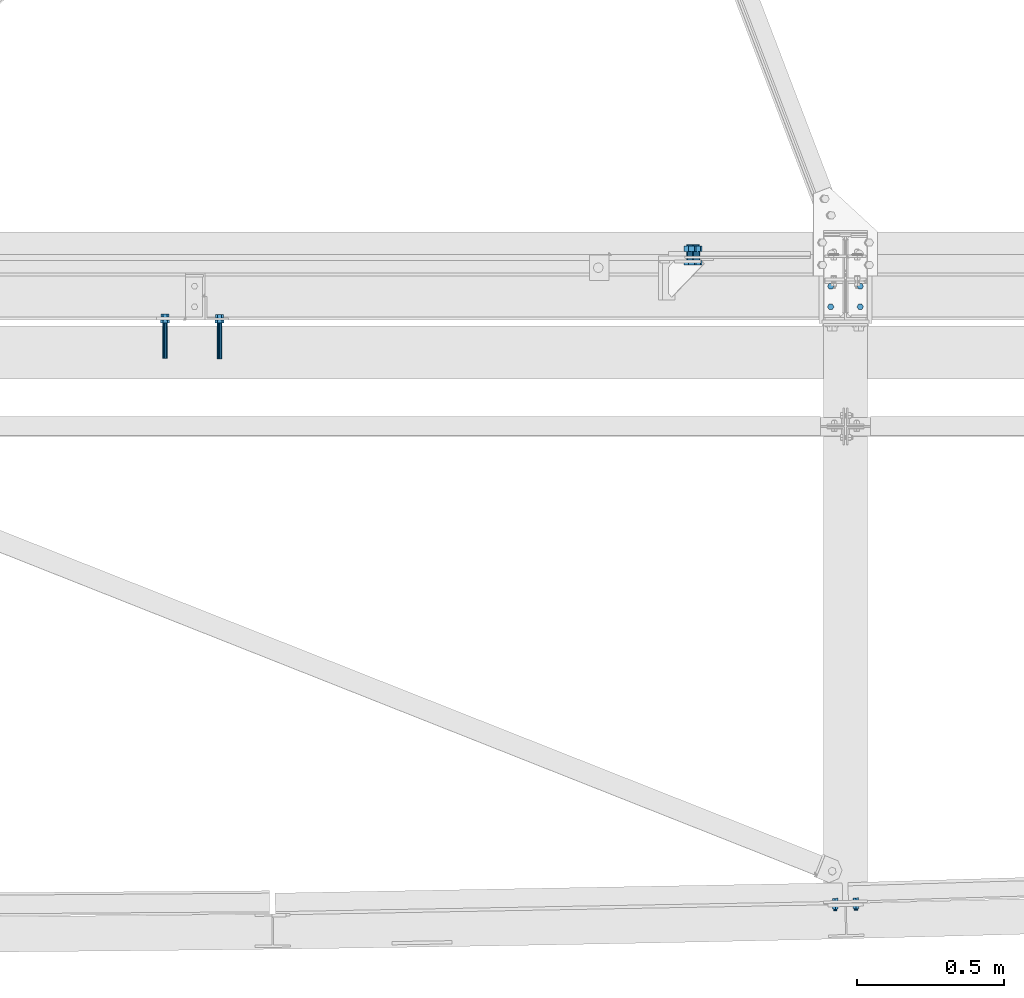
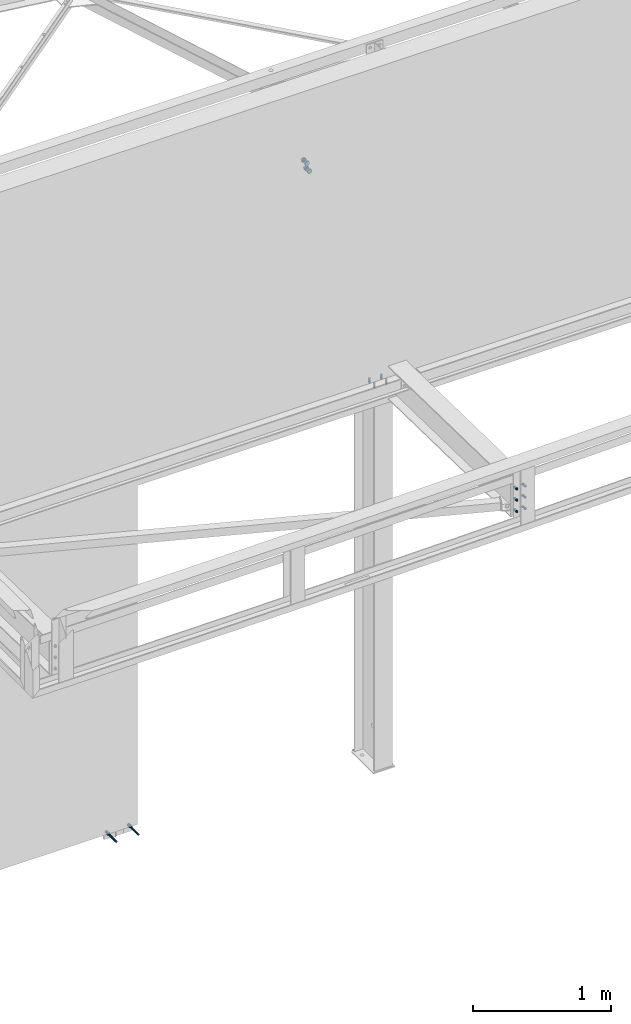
# One storey, part 23 of 3134: 6 mechanical fasteners, 5 elements without a shape of their own.
"""IFC2X3 building model written with IfcOpenShell, lengths in millimetres."""

from ifc_helpers import new_model, si_unit, frame, origin_with_axes, place, context, subcontext, project, spatial, faceted_brep, source, transform, mapped, material, type_object, element, aggregate, save


model = new_model("IFC2X3")

# Units and contexts
model_context = context("Model", 3, precision=1e-05, world=origin_with_axes())
body_context = subcontext(model_context, "Body", "Model", "MODEL_VIEW")
ifc_project = project(units=[si_unit("LENGTHUNIT", "METRE", prefix="MILLI"), si_unit("AREAUNIT", "SQUARE_METRE"), si_unit("VOLUMEUNIT", "CUBIC_METRE"), si_unit("MASSUNIT", "GRAM", prefix="KILO"), si_unit("TIMEUNIT", "SECOND"), si_unit("PLANEANGLEUNIT", "RADIAN"), si_unit("SOLIDANGLEUNIT", "STERADIAN"), si_unit("THERMODYNAMICTEMPERATUREUNIT", "DEGREE_CELSIUS"), si_unit("LUMINOUSINTENSITYUNIT", "LUMEN")], contexts=[model_context])

# Site, building, storey
site_placement = place(None, origin_with_axes())
site = spatial("IfcSite", under=ifc_project, at=site_placement, CompositionType="ELEMENT")
building_placement = place(site_placement, origin_with_axes())
building = spatial("IfcBuilding", under=site, at=building_placement, Name="Undefined", CompositionType="ELEMENT")
storey_placement = place(building_placement, origin_with_axes())
storey = spatial("IfcBuildingStorey", under=building, at=storey_placement, Name="Undefined", CompositionType="ELEMENT", Elevation=0.0)

# Assembly, mechanical fastener
assembly_1_placement = place(storey_placement, origin_with_axes())
assembly_1 = element("IfcElementAssembly", 1, at=assembly_1_placement, inside=storey, Name="UPN120", AssemblyPlace="NOTDEFINED", PredefinedType="RIGID_FRAME")
ifc_material_1 = material(Name="8.8")
mechanical_fastener_type = type_object("IfcMechanicalFastenerType", Name="Bolt assembly")
shared_shape_1 = source(origin_with_axes(), body_context, "Body", "Brep", [
    faceted_brep([(10.9696551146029, -7.99980031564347, 0.0), (5.48482755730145, -7.99980031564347, 9.5), (-5.48482755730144, -7.99980031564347, 9.5), (-10.9696551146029, -7.99980031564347, 1.34339530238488e-15), (-5.48482755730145, -7.99980031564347, -9.5), (5.48482755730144, -7.99980031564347, -9.50000000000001), (5.48482755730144, 0.000199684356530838, -9.50000000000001), (-5.48482755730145, 0.000199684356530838, -9.5), (-10.9696551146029, 0.000199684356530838, 1.34339530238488e-15), (-5.48482755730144, 0.000199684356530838, 9.5), (5.48482755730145, 0.000199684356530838, 9.5), (10.9696551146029, 0.000199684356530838, 0.0), (6.0, 0.000199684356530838, 0.0), (5.19615242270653, 0.000199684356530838, 3.00000000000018), (2.99999999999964, 0.000199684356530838, 5.19615242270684), (-6.21801588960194e-13, 0.000199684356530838, 6.0), (-3.00000000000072, 0.000199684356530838, 5.19615242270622), (-5.19615242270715, 0.000199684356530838, 2.9999999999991), (-6.0, 0.000199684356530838, -1.24360317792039e-12), (-5.19615242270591, 0.000199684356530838, -3.00000000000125), (-2.99999999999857, 0.000199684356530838, -5.19615242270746), (1.85874342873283e-12, 0.000199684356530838, -6.0), (3.00000000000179, 0.000199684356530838, -5.1961524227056), (5.19615242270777, 0.000199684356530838, -2.99999999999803), (5.19615242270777, 35.0001996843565, -2.99999999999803), (3.00000000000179, 35.0001996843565, -5.1961524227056), (1.85874342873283e-12, 35.0001996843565, -6.0), (-2.99999999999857, 35.0001996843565, -5.19615242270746), (-5.19615242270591, 35.0001996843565, -3.00000000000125), (-6.0, 35.0001996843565, -1.24360317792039e-12), (-5.19615242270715, 35.0001996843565, 2.9999999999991), (-3.00000000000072, 35.0001996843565, 5.19615242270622), (-6.21801588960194e-13, 35.0001996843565, 6.0), (2.99999999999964, 35.0001996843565, 5.19615242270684), (5.19615242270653, 35.0001996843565, 3.00000000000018), (6.0, 35.0001996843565, 0.0), (10.9696551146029, 18.0000503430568, 0.0), (5.48482755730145, 18.0000503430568, 9.5), (-5.48482755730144, 18.0000503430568, 9.5), (-10.9696551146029, 18.0000503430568, 1.34339530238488e-15), (-5.48482755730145, 18.0000503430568, -9.5), (5.48482755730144, 18.0000503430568, -9.50000000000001), (5.48482755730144, 28.0000503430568, -9.50000000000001), (-5.48482755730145, 28.0000503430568, -9.5), (-10.9696551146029, 28.0000503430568, 1.34339530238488e-15), (-5.48482755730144, 28.0000503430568, 9.5), (5.48482755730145, 28.0000503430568, 9.5), (10.9696551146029, 28.0000503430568, 0.0)], [[[0, 1, 2, 3, 4, 5]], [[6, 7, 8, 9, 10, 11]], [[0, 11, 10, 1]], [[1, 10, 9, 2]], [[2, 9, 8, 3]], [[3, 8, 7, 4]], [[4, 7, 6, 5]], [[5, 6, 11, 0]], [[12, 13, 14, 15, 16, 17, 18, 19, 20, 21, 22, 23]], [[24, 25, 26, 27, 28, 29, 30, 31, 32, 33, 34, 35]], [[12, 35, 34, 13]], [[13, 34, 33, 14]], [[14, 33, 32, 15]], [[15, 32, 31, 16]], [[16, 31, 30, 17]], [[17, 30, 29, 18]], [[18, 29, 28, 19]], [[19, 28, 27, 20]], [[20, 27, 26, 21]], [[21, 26, 25, 22]], [[22, 25, 24, 23]], [[23, 24, 35, 12]], [[36, 37, 38, 39, 40, 41]], [[42, 43, 44, 45, 46, 47]], [[36, 47, 46, 37]], [[37, 46, 45, 38]], [[38, 45, 44, 39]], [[39, 44, 43, 40]], [[40, 43, 42, 41]], [[41, 42, 47, 36]]]),
    faceted_brep([(7.0, 0.100152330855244, 0.0), (6.06217782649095, 0.100152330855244, 3.50000000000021), (3.49999999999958, 0.100152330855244, 6.06217782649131), (-7.25435187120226e-13, 0.100152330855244, 7.0), (-3.50000000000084, 0.100152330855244, 6.06217782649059), (-6.06217782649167, 0.100152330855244, 3.49999999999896), (-7.0, 0.100152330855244, -1.45087037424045e-12), (-6.06217782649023, 0.100152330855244, -3.50000000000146), (-3.49999999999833, 0.100152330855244, -6.06217782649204), (2.1685340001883e-12, 0.100152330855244, -7.0), (3.50000000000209, 0.100152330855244, -6.06217782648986), (6.0621778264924, 0.100152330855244, -3.4999999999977), (6.0621778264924, 10.1001996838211, -3.4999999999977), (3.50000000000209, 10.1001996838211, -6.06217782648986), (2.1685340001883e-12, 10.1001996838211, -7.0), (-3.49999999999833, 10.1001996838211, -6.06217782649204), (-6.06217782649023, 10.1001996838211, -3.50000000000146), (-7.0, 10.1001996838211, -1.45087037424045e-12), (-6.06217782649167, 10.1001996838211, 3.49999999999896), (-3.50000000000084, 10.1001996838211, 6.06217782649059), (-7.25435187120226e-13, 10.1001996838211, 7.0), (3.49999999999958, 10.1001996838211, 6.06217782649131), (6.06217782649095, 10.1001996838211, 3.50000000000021), (7.0, 10.1001996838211, 0.0), (7.0, 9.90005034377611, 0.0), (6.06217782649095, 9.90005034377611, 3.50000000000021), (3.49999999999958, 9.90005034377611, 6.06217782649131), (-7.25435187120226e-13, 9.90005034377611, 7.0), (-3.50000000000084, 9.90005034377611, 6.06217782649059), (-6.06217782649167, 9.90005034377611, 3.49999999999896), (-7.0, 9.90005034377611, -1.45087037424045e-12), (-6.06217782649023, 9.90005034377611, -3.50000000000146), (-3.49999999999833, 9.90005034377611, -6.06217782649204), (2.1685340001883e-12, 9.90005034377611, -7.0), (3.50000000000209, 9.90005034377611, -6.06217782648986), (6.0621778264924, 9.90005034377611, -3.4999999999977), (6.0621778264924, 18.0000503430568, -3.4999999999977), (3.50000000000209, 18.0000503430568, -6.06217782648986), (2.1685340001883e-12, 18.0000503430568, -7.0), (-3.49999999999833, 18.0000503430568, -6.06217782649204), (-6.06217782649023, 18.0000503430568, -3.50000000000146), (-7.0, 18.0000503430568, -1.45087037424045e-12), (-6.06217782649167, 18.0000503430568, 3.49999999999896), (-3.50000000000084, 18.0000503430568, 6.06217782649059), (-7.25435187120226e-13, 18.0000503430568, 7.0), (3.49999999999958, 18.0000503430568, 6.06217782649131), (6.06217782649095, 18.0000503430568, 3.50000000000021), (7.0, 18.0000503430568, 0.0)], [[[0, 1, 2, 3, 4, 5, 6, 7, 8, 9, 10, 11]], [[12, 13, 14, 15, 16, 17, 18, 19, 20, 21, 22, 23]], [[0, 23, 22, 1]], [[1, 22, 21, 2]], [[2, 21, 20, 3]], [[3, 20, 19, 4]], [[4, 19, 18, 5]], [[5, 18, 17, 6]], [[6, 17, 16, 7]], [[7, 16, 15, 8]], [[8, 15, 14, 9]], [[9, 14, 13, 10]], [[10, 13, 12, 11]], [[11, 12, 23, 0]], [[24, 25, 26, 27, 28, 29, 30, 31, 32, 33, 34, 35]], [[36, 37, 38, 39, 40, 41, 42, 43, 44, 45, 46, 47]], [[24, 47, 46, 25]], [[25, 46, 45, 26]], [[26, 45, 44, 27]], [[27, 44, 43, 28]], [[28, 43, 42, 29]], [[29, 42, 41, 30]], [[30, 41, 40, 31]], [[31, 40, 39, 32]], [[32, 39, 38, 33]], [[33, 38, 37, 34]], [[34, 37, 36, 35]], [[35, 36, 47, 24]]]),
])
mechanical_fastener_1_placement = place(assembly_1_placement, frame((24742.0002066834, -2195.07349166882, 3310.21815992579), z_axis=(-0.999718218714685, -0.0237378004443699, 0.0), x_axis=(0.0, 0.0, -1.0)))
mechanical_fastener_1 = element("IfcMechanicalFastener", 2, at=mechanical_fastener_1_placement, type_object=mechanical_fastener_type, material=ifc_material_1, Name="Bolt assembly", NominalDiameter=12.0, NominalLength=35.0, context=body_context, shape_type="MappedRepresentation", body=[
    mapped(shared_shape_1, transform((0.0, 0.0, -35.0))),
    mapped(shared_shape_1, transform((100.0, 2.05545802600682e-10, -35.0000000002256))),
    mapped(shared_shape_1, transform((200.0, 2.05545802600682e-10, -35.0000000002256))),
    mapped(shared_shape_1, transform((0.0, 0.0, 35.0))),
    mapped(shared_shape_1, transform((100.0, -2.07364792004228e-10, 35.0000000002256))),
    mapped(shared_shape_1, transform((200.0, -2.07364792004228e-10, 35.0000000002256))),
])
aggregate(assembly_1, [mechanical_fastener_1])

assembly_2_placement = place(storey_placement, origin_with_axes())
assembly_2 = element("IfcElementAssembly", 3, at=assembly_2_placement, inside=storey, Name="UPN160", AssemblyPlace="NOTDEFINED", PredefinedType="RIGID_FRAME")
shared_shape_2 = source(origin_with_axes(), body_context, "Body", "Brep", [
    faceted_brep([(10.9696551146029, -15.5, 0.0), (5.48482755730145, -15.5, 9.5), (-5.48482755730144, -15.5, 9.5), (-10.9696551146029, -15.5, 1.34339530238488e-15), (-5.48482755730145, -15.5, -9.5), (5.48482755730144, -15.5, -9.50000000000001), (5.48482755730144, -7.5, -9.50000000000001), (-5.48482755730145, -7.5, -9.5), (-10.9696551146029, -7.5, 1.34339530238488e-15), (-5.48482755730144, -7.5, 9.5), (5.48482755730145, -7.5, 9.5), (10.9696551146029, -7.5, 0.0), (6.0, -7.5, 0.0), (5.19615242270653, -7.5, 3.00000000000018), (2.99999999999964, -7.5, 5.19615242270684), (-6.21801588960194e-13, -7.5, 6.0), (-3.00000000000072, -7.5, 5.19615242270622), (-5.19615242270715, -7.5, 2.9999999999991), (-6.0, -7.5, -1.24360317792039e-12), (-5.19615242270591, -7.5, -3.00000000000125), (-2.99999999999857, -7.5, -5.19615242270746), (1.85874342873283e-12, -7.5, -6.0), (3.00000000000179, -7.5, -5.1961524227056), (5.19615242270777, -7.5, -2.99999999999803), (5.19615242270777, 27.5000000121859, -2.99999999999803), (3.00000000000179, 27.5000000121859, -5.1961524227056), (1.85874342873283e-12, 27.5000000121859, -6.0), (-2.99999999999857, 27.5000000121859, -5.19615242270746), (-5.19615242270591, 27.5000000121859, -3.00000000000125), (-6.0, 27.5000000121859, -1.24360317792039e-12), (-5.19615242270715, 27.5000000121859, 2.9999999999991), (-3.00000000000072, 27.5000000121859, 5.19615242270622), (-6.21801588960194e-13, 27.5000000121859, 6.0), (2.99999999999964, 27.5000000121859, 5.19615242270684), (5.19615242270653, 27.5000000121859, 3.00000000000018), (6.0, 27.5000000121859, 0.0), (10.9696551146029, 10.0, 0.0), (5.48482755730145, 10.0, 9.5), (-5.48482755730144, 10.0, 9.5), (-10.9696551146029, 10.0, 1.34339530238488e-15), (-5.48482755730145, 10.0, -9.5), (5.48482755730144, 10.0, -9.50000000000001), (5.48482755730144, 20.0, -9.50000000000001), (-5.48482755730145, 20.0, -9.5), (-10.9696551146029, 20.0, 1.34339530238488e-15), (-5.48482755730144, 20.0, 9.5), (5.48482755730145, 20.0, 9.5), (10.9696551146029, 20.0, 0.0)], [[[0, 1, 2, 3, 4, 5]], [[6, 7, 8, 9, 10, 11]], [[0, 11, 10, 1]], [[1, 10, 9, 2]], [[2, 9, 8, 3]], [[3, 8, 7, 4]], [[4, 7, 6, 5]], [[5, 6, 11, 0]], [[12, 13, 14, 15, 16, 17, 18, 19, 20, 21, 22, 23]], [[24, 25, 26, 27, 28, 29, 30, 31, 32, 33, 34, 35]], [[12, 35, 34, 13]], [[13, 34, 33, 14]], [[14, 33, 32, 15]], [[15, 32, 31, 16]], [[16, 31, 30, 17]], [[17, 30, 29, 18]], [[18, 29, 28, 19]], [[19, 28, 27, 20]], [[20, 27, 26, 21]], [[21, 26, 25, 22]], [[22, 25, 24, 23]], [[23, 24, 35, 12]], [[36, 37, 38, 39, 40, 41]], [[42, 43, 44, 45, 46, 47]], [[36, 47, 46, 37]], [[37, 46, 45, 38]], [[38, 45, 44, 39]], [[39, 44, 43, 40]], [[40, 43, 42, 41]], [[41, 42, 47, 36]]]),
    faceted_brep([(7.0, -0.1, 0.0), (6.06217782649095, -0.1, 3.50000000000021), (3.49999999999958, -0.1, 6.06217782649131), (-7.25435187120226e-13, -0.1, 7.0), (-3.50000000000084, -0.1, 6.06217782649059), (-6.06217782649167, -0.1, 3.49999999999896), (-7.0, -0.1, -1.45087037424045e-12), (-6.06217782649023, -0.1, -3.50000000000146), (-3.49999999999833, -0.1, -6.06217782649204), (2.1685340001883e-12, -0.1, -7.0), (3.50000000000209, -0.1, -6.06217782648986), (6.0621778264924, -0.1, -3.4999999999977), (6.0621778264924, 10.0, -3.4999999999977), (3.50000000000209, 10.0, -6.06217782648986), (2.1685340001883e-12, 10.0, -7.0), (-3.49999999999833, 10.0, -6.06217782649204), (-6.06217782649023, 10.0, -3.50000000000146), (-7.0, 10.0, -1.45087037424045e-12), (-6.06217782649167, 10.0, 3.49999999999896), (-3.50000000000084, 10.0, 6.06217782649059), (-7.25435187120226e-13, 10.0, 7.0), (3.49999999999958, 10.0, 6.06217782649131), (6.06217782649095, 10.0, 3.50000000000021), (7.0, 10.0, 0.0), (7.0, -7.4, 0.0), (6.06217782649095, -7.4, 3.50000000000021), (3.49999999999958, -7.4, 6.06217782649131), (-7.25435187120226e-13, -7.4, 7.0), (-3.50000000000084, -7.4, 6.06217782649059), (-6.06217782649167, -7.4, 3.49999999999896), (-7.0, -7.4, -1.45087037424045e-12), (-6.06217782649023, -7.4, -3.50000000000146), (-3.49999999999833, -7.4, -6.06217782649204), (2.1685340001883e-12, -7.4, -7.0), (3.50000000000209, -7.4, -6.06217782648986), (6.0621778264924, -7.4, -3.4999999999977), (6.0621778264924, 0.0999999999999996, -3.4999999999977), (3.50000000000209, 0.0999999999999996, -6.06217782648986), (2.1685340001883e-12, 0.0999999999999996, -7.0), (-3.49999999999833, 0.0999999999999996, -6.06217782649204), (-6.06217782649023, 0.0999999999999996, -3.50000000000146), (-7.0, 0.0999999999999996, -1.45087037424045e-12), (-6.06217782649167, 0.0999999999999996, 3.49999999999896), (-3.50000000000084, 0.0999999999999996, 6.06217782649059), (-7.25435187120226e-13, 0.0999999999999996, 7.0), (3.49999999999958, 0.0999999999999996, 6.06217782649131), (6.06217782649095, 0.0999999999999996, 3.50000000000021), (7.0, 0.0999999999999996, 0.0)], [[[0, 1, 2, 3, 4, 5, 6, 7, 8, 9, 10, 11]], [[12, 13, 14, 15, 16, 17, 18, 19, 20, 21, 22, 23]], [[0, 23, 22, 1]], [[1, 22, 21, 2]], [[2, 21, 20, 3]], [[3, 20, 19, 4]], [[4, 19, 18, 5]], [[5, 18, 17, 6]], [[6, 17, 16, 7]], [[7, 16, 15, 8]], [[8, 15, 14, 9]], [[9, 14, 13, 10]], [[10, 13, 12, 11]], [[11, 12, 23, 0]], [[24, 25, 26, 27, 28, 29, 30, 31, 32, 33, 34, 35]], [[36, 37, 38, 39, 40, 41, 42, 43, 44, 45, 46, 47]], [[24, 47, 46, 25]], [[25, 46, 45, 26]], [[26, 45, 44, 27]], [[27, 44, 43, 28]], [[28, 43, 42, 29]], [[29, 42, 41, 30]], [[30, 41, 40, 31]], [[31, 40, 39, 32]], [[32, 39, 38, 33]], [[33, 38, 37, 34]], [[34, 37, 36, 35]], [[35, 36, 47, 24]]]),
])
mechanical_fastener_2_placement = place(assembly_2_placement, frame((24691.9999999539, -145.0, 3000.00000001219), z_axis=(0.0, 1.0, 0.0), x_axis=(1.0, 0.0, 0.0)))
mechanical_fastener_2 = element("IfcMechanicalFastener", 4, at=mechanical_fastener_2_placement, type_object=mechanical_fastener_type, material=ifc_material_1, Name="Bolt assembly", NominalDiameter=12.0, NominalLength=35.0, context=body_context, shape_type="MappedRepresentation", body=[
    mapped(shared_shape_2, transform((0.0, 0.0, -35.0))),
    mapped(shared_shape_2, transform((0.0, 0.0, 35.0))),
])
aggregate(assembly_2, [mechanical_fastener_2])

assembly_3_placement = place(storey_placement, origin_with_axes())
assembly_3 = element("IfcElementAssembly", 5, at=assembly_3_placement, inside=storey, Name="UPN160", AssemblyPlace="NOTDEFINED", PredefinedType="RIGID_FRAME")
mechanical_fastener_3_placement = place(assembly_3_placement, frame((24791.9999999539, -145.0, 3000.00000001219), z_axis=(0.0, 1.0, 0.0), x_axis=(1.0, 0.0, 0.0)))
mechanical_fastener_3 = element("IfcMechanicalFastener", 6, at=mechanical_fastener_3_placement, type_object=mechanical_fastener_type, material=ifc_material_1, Name="Bolt assembly", NominalDiameter=12.0, NominalLength=35.0, context=body_context, shape_type="MappedRepresentation", body=[
    mapped(shared_shape_2, transform((0.0, 0.0, -35.0))),
    mapped(shared_shape_2, transform((0.0, 0.0, 35.0))),
])
aggregate(assembly_3, [mechanical_fastener_3])

# Assembly, mechanical fasteners
assembly_4_placement = place(storey_placement, origin_with_axes())
assembly_4 = element("IfcElementAssembly", 7, at=assembly_4_placement, inside=storey, Name="UPN160", AssemblyPlace="NOTDEFINED", PredefinedType="RIGID_FRAME")
ifc_material_2 = material(Name="HILTI-HSA")
shared_shape_3 = source(origin_with_axes(), body_context, "Body", "Brep", [
    faceted_brep([(13.856406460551, -20.56, 0.0), (6.92820323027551, -20.56, 12.0), (-6.92820323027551, -20.56, 12.0), (-13.856406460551, -20.56, 1.69692038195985e-15), (-6.92820323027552, -20.56, -12.0), (6.9282032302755, -20.56, -12.0), (6.9282032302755, -10.0, -12.0), (-6.92820323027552, -10.0, -12.0), (-13.856406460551, -10.0, 1.69692038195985e-15), (-6.92820323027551, -10.0, 12.0), (6.92820323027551, -10.0, 12.0), (13.856406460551, -10.0, 0.0), (8.0, -10.0, 0.0), (6.92820323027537, -10.0, 4.00000000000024), (3.99999999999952, -10.0, 6.92820323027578), (-8.29068785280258e-13, -10.0, 8.0), (-4.00000000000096, -10.0, 6.92820323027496), (-6.9282032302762, -10.0, 3.99999999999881), (-8.0, -10.0, -1.65813757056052e-12), (-6.92820323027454, -10.0, -4.00000000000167), (-3.99999999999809, -10.0, -6.92820323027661), (2.47832457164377e-12, -10.0, -8.0), (4.00000000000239, -10.0, -6.92820323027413), (6.92820323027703, -10.0, -3.99999999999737), (6.92820323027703, 130.0, -3.99999999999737), (4.00000000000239, 130.0, -6.92820323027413), (2.47832457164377e-12, 130.0, -8.0), (-3.99999999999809, 130.0, -6.92820323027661), (-6.92820323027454, 130.0, -4.00000000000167), (-8.0, 130.0, -1.65813757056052e-12), (-6.9282032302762, 130.0, 3.99999999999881), (-4.00000000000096, 130.0, 6.92820323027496), (-8.29068785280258e-13, 130.0, 8.0), (3.99999999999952, 130.0, 6.92820323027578), (6.92820323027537, 130.0, 4.00000000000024), (8.0, 130.0, 0.0), (15.3344231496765, 7.105427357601e-15, 0.0), (7.66721157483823, 7.105427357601e-15, 13.28), (-7.66721157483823, 7.105427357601e-15, 13.28), (-15.3344231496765, 7.105427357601e-15, 1.87792522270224e-15), (-7.66721157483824, 7.105427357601e-15, -13.28), (7.66721157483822, 7.105427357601e-15, -13.28), (7.66721157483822, 10.56, -13.28), (-7.66721157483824, 10.56, -13.28), (-15.3344231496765, 10.56, 1.87792522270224e-15), (-7.66721157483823, 10.56, 13.28), (7.66721157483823, 10.56, 13.28), (15.3344231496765, 10.56, 0.0)], [[[0, 1, 2, 3, 4, 5]], [[6, 7, 8, 9, 10, 11]], [[0, 11, 10, 1]], [[1, 10, 9, 2]], [[2, 9, 8, 3]], [[3, 8, 7, 4]], [[4, 7, 6, 5]], [[5, 6, 11, 0]], [[12, 13, 14, 15, 16, 17, 18, 19, 20, 21, 22, 23]], [[24, 25, 26, 27, 28, 29, 30, 31, 32, 33, 34, 35]], [[12, 35, 34, 13]], [[13, 34, 33, 14]], [[14, 33, 32, 15]], [[15, 32, 31, 16]], [[16, 31, 30, 17]], [[17, 30, 29, 18]], [[18, 29, 28, 19]], [[19, 28, 27, 20]], [[20, 27, 26, 21]], [[21, 26, 25, 22]], [[22, 25, 24, 23]], [[23, 24, 35, 12]], [[36, 37, 38, 39, 40, 41]], [[42, 43, 44, 45, 46, 47]], [[36, 47, 46, 37]], [[37, 46, 45, 38]], [[38, 45, 44, 39]], [[39, 44, 43, 40]], [[40, 43, 42, 41]], [[41, 42, 47, 36]]]),
    faceted_brep([(9.0, -10.0, 0.0), (7.79422863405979, -10.0, 4.50000000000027), (4.49999999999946, -10.0, 7.79422863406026), (-9.3270238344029e-13, -10.0, 9.0), (-4.50000000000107, -10.0, 7.79422863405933), (-7.79422863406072, -10.0, 4.49999999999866), (-9.0, -10.0, -1.86540476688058e-12), (-7.79422863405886, -10.0, -4.50000000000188), (-4.49999999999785, -10.0, -7.79422863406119), (2.78811514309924e-12, -10.0, -9.0), (4.50000000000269, -10.0, -7.7942286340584), (7.79422863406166, -10.0, -4.49999999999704), (7.79422863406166, 0.100000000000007, -4.49999999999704), (4.50000000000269, 0.100000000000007, -7.7942286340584), (2.78811514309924e-12, 0.100000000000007, -9.0), (-4.49999999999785, 0.100000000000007, -7.79422863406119), (-7.79422863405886, 0.100000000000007, -4.50000000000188), (-9.0, 0.100000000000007, -1.86540476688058e-12), (-7.79422863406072, 0.100000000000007, 4.49999999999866), (-4.50000000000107, 0.100000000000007, 7.79422863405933), (-9.3270238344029e-13, 0.100000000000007, 9.0), (4.49999999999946, 0.100000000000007, 7.79422863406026), (7.79422863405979, 0.100000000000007, 4.50000000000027), (9.0, 0.100000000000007, 0.0)], [[[0, 1, 2, 3, 4, 5, 6, 7, 8, 9, 10, 11]], [[12, 13, 14, 15, 16, 17, 18, 19, 20, 21, 22, 23]], [[0, 23, 22, 1]], [[1, 22, 21, 2]], [[2, 21, 20, 3]], [[3, 20, 19, 4]], [[4, 19, 18, 5]], [[5, 18, 17, 6]], [[6, 17, 16, 7]], [[7, 16, 15, 8]], [[8, 15, 14, 9]], [[9, 14, 13, 10]], [[10, 13, 12, 11]], [[11, 12, 23, 0]]]),
])
mechanical_fastener_4_placement = place(assembly_4_placement, frame((22432.0, -225.0, -150.0), z_axis=(0.0, 0.0, -1.0), x_axis=(1.0, 0.0, 0.0)))
mechanical_fastener_4 = element("IfcMechanicalFastener", 8, at=mechanical_fastener_4_placement, type_object=mechanical_fastener_type, material=ifc_material_2, Name="Bolt assembly", NominalDiameter=16.0, NominalLength=140.0, context=body_context, shape_type="MappedRepresentation", body=[
    mapped(shared_shape_3, transform((0.0, 0.0, 0.0))),
])
shared_shape_4 = source(origin_with_axes(), body_context, "Body", "Brep", [
    faceted_brep([(13.856406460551, -18.56, 0.0), (6.92820323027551, -18.56, 12.0), (-6.92820323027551, -18.56, 12.0), (-13.856406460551, -18.56, 1.69692038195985e-15), (-6.92820323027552, -18.56, -12.0), (6.9282032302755, -18.56, -12.0), (6.9282032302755, -7.99999766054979, -12.0), (-6.92820323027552, -7.99999766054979, -12.0), (-13.856406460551, -7.99999766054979, 1.69692038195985e-15), (-6.92820323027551, -7.99999766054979, 12.0), (6.92820323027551, -7.99999766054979, 12.0), (13.856406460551, -7.99999766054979, 0.0), (8.0, -8.0, 0.0), (6.92820323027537, -8.0, 4.00000000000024), (3.99999999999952, -8.0, 6.92820323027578), (-8.29068785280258e-13, -8.0, 8.0), (-4.00000000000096, -8.0, 6.92820323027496), (-6.9282032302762, -8.0, 3.99999999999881), (-8.0, -8.0, -1.65813757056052e-12), (-6.92820323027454, -8.0, -4.00000000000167), (-3.99999999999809, -8.0, -6.92820323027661), (2.47832457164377e-12, -8.0, -8.0), (4.00000000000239, -8.0, -6.92820323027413), (6.92820323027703, -8.0, -3.99999999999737), (6.92820323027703, 132.0, -3.99999999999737), (4.00000000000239, 132.0, -6.92820323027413), (2.47832457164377e-12, 132.0, -8.0), (-3.99999999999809, 132.0, -6.92820323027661), (-6.92820323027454, 132.0, -4.00000000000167), (-8.0, 132.0, -1.65813757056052e-12), (-6.9282032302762, 132.0, 3.99999999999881), (-4.00000000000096, 132.0, 6.92820323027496), (-8.29068785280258e-13, 132.0, 8.0), (3.99999999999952, 132.0, 6.92820323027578), (6.92820323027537, 132.0, 4.00000000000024), (8.0, 132.0, 0.0), (15.3344231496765, 7.105427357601e-15, 0.0), (7.66721157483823, 7.105427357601e-15, 13.28), (-7.66721157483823, 7.105427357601e-15, 13.28), (-15.3344231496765, 7.105427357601e-15, 1.87792522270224e-15), (-7.66721157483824, 7.105427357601e-15, -13.28), (7.66721157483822, 7.105427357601e-15, -13.28), (7.66721157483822, 10.56, -13.28), (-7.66721157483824, 10.56, -13.28), (-15.3344231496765, 10.56, 1.87792522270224e-15), (-7.66721157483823, 10.56, 13.28), (7.66721157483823, 10.56, 13.28), (15.3344231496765, 10.56, 0.0)], [[[0, 1, 2, 3, 4, 5]], [[6, 7, 8, 9, 10, 11]], [[0, 11, 10, 1]], [[1, 10, 9, 2]], [[2, 9, 8, 3]], [[3, 8, 7, 4]], [[4, 7, 6, 5]], [[5, 6, 11, 0]], [[12, 13, 14, 15, 16, 17, 18, 19, 20, 21, 22, 23]], [[24, 25, 26, 27, 28, 29, 30, 31, 32, 33, 34, 35]], [[12, 35, 34, 13]], [[13, 34, 33, 14]], [[14, 33, 32, 15]], [[15, 32, 31, 16]], [[16, 31, 30, 17]], [[17, 30, 29, 18]], [[18, 29, 28, 19]], [[19, 28, 27, 20]], [[20, 27, 26, 21]], [[21, 26, 25, 22]], [[22, 25, 24, 23]], [[23, 24, 35, 12]], [[36, 37, 38, 39, 40, 41]], [[42, 43, 44, 45, 46, 47]], [[36, 47, 46, 37]], [[37, 46, 45, 38]], [[38, 45, 44, 39]], [[39, 44, 43, 40]], [[40, 43, 42, 41]], [[41, 42, 47, 36]]]),
    faceted_brep([(9.0, -8.0, 0.0), (7.79422863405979, -8.0, 4.50000000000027), (4.49999999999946, -8.0, 7.79422863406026), (-9.3270238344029e-13, -8.0, 9.0), (-4.50000000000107, -8.0, 7.79422863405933), (-7.79422863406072, -8.0, 4.49999999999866), (-9.0, -8.0, -1.86540476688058e-12), (-7.79422863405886, -8.0, -4.50000000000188), (-4.49999999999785, -8.0, -7.79422863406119), (2.78811514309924e-12, -8.0, -9.0), (4.50000000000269, -8.0, -7.7942286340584), (7.79422863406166, -8.0, -4.49999999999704), (7.79422863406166, 0.100000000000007, -4.49999999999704), (4.50000000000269, 0.100000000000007, -7.7942286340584), (2.78811514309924e-12, 0.100000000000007, -9.0), (-4.49999999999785, 0.100000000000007, -7.79422863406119), (-7.79422863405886, 0.100000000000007, -4.50000000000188), (-9.0, 0.100000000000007, -1.86540476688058e-12), (-7.79422863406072, 0.100000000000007, 4.49999999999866), (-4.50000000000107, 0.100000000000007, 7.79422863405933), (-9.3270238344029e-13, 0.100000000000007, 9.0), (4.49999999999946, 0.100000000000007, 7.79422863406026), (7.79422863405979, 0.100000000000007, 4.50000000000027), (9.0, 0.100000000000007, 0.0)], [[[0, 1, 2, 3, 4, 5, 6, 7, 8, 9, 10, 11]], [[12, 13, 14, 15, 16, 17, 18, 19, 20, 21, 22, 23]], [[0, 23, 22, 1]], [[1, 22, 21, 2]], [[2, 21, 20, 3]], [[3, 20, 19, 4]], [[4, 19, 18, 5]], [[5, 18, 17, 6]], [[6, 17, 16, 7]], [[7, 16, 15, 8]], [[8, 15, 14, 9]], [[9, 14, 13, 10]], [[10, 13, 12, 11]], [[11, 12, 23, 0]]]),
])
mechanical_fastener_5_placement = place(assembly_4_placement, frame((22617.0, -225.0, -150.0), z_axis=(0.0, 0.0, 1.0), x_axis=(-1.0, 0.0, 0.0)))
mechanical_fastener_5 = element("IfcMechanicalFastener", 9, at=mechanical_fastener_5_placement, type_object=mechanical_fastener_type, material=ifc_material_2, Name="Bolt assembly", NominalDiameter=16.0, NominalLength=140.0, context=body_context, shape_type="MappedRepresentation", body=[
    mapped(shared_shape_4, transform((0.0, 0.0, 0.0))),
])
aggregate(assembly_4, [mechanical_fastener_4, mechanical_fastener_5])

# Assembly, mechanical fastener
assembly_5_placement = place(storey_placement, origin_with_axes())
assembly_5 = element("IfcElementAssembly", 10, at=assembly_5_placement, inside=storey, Name="300", AssemblyPlace="NOTDEFINED", PredefinedType="RIGID_FRAME")
shared_shape_5 = source(origin_with_axes(), body_context, "Body", "Brep", [
    faceted_brep([(20.7846096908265, -37.5, 0.0), (10.3923048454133, -37.5, 18.0), (-10.3923048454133, -37.5, 18.0), (-20.7846096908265, -37.5, 2.54538057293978e-15), (-10.3923048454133, -37.5, -18.0), (10.3923048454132, -37.5, -18.0), (10.3923048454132, -22.5, -18.0), (-10.3923048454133, -22.5, -18.0), (-20.7846096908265, -22.5, 2.54538057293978e-15), (-10.3923048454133, -22.5, 18.0), (10.3923048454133, -22.5, 18.0), (20.7846096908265, -22.5, 0.0), (12.0, -22.5, 0.0), (10.3923048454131, -22.5, 6.00000000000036), (5.99999999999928, -22.5, 10.3923048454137), (-1.24360317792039e-12, -22.5, 12.0), (-6.00000000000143, -22.5, 10.3923048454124), (-10.3923048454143, -22.5, 5.99999999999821), (-12.0, -22.5, -2.48720635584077e-12), (-10.3923048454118, -22.5, -6.00000000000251), (-5.99999999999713, -22.5, -10.3923048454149), (3.71748685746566e-12, -22.5, -12.0), (6.00000000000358, -22.5, -10.3923048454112), (10.3923048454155, -22.5, -5.99999999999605), (10.3923048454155, 32.5, -5.99999999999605), (6.00000000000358, 32.5, -10.3923048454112), (3.71748685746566e-12, 32.5, -12.0), (-5.99999999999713, 32.5, -10.3923048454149), (-10.3923048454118, 32.5, -6.00000000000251), (-12.0, 32.5, -2.48720635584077e-12), (-10.3923048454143, 32.5, 5.99999999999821), (-6.00000000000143, 32.5, 10.3923048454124), (-1.24360317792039e-12, 32.5, 12.0), (5.99999999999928, 32.5, 10.3923048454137), (10.3923048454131, 32.5, 6.00000000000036), (12.0, 32.5, 0.0), (20.7846096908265, 7.5, 0.0), (10.3923048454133, 7.5, 18.0), (-10.3923048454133, 7.5, 18.0), (-20.7846096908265, 7.5, 2.54538057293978e-15), (-10.3923048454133, 7.5, -18.0), (10.3923048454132, 7.5, -18.0), (10.3923048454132, 26.5, -18.0), (-10.3923048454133, 26.5, -18.0), (-20.7846096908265, 26.5, 2.54538057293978e-15), (-10.3923048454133, 26.5, 18.0), (10.3923048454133, 26.5, 18.0), (20.7846096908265, 26.5, 0.0)], [[[0, 1, 2, 3, 4, 5]], [[6, 7, 8, 9, 10, 11]], [[0, 11, 10, 1]], [[1, 10, 9, 2]], [[2, 9, 8, 3]], [[3, 8, 7, 4]], [[4, 7, 6, 5]], [[5, 6, 11, 0]], [[12, 13, 14, 15, 16, 17, 18, 19, 20, 21, 22, 23]], [[24, 25, 26, 27, 28, 29, 30, 31, 32, 33, 34, 35]], [[12, 35, 34, 13]], [[13, 34, 33, 14]], [[14, 33, 32, 15]], [[15, 32, 31, 16]], [[16, 31, 30, 17]], [[17, 30, 29, 18]], [[18, 29, 28, 19]], [[19, 28, 27, 20]], [[20, 27, 26, 21]], [[21, 26, 25, 22]], [[22, 25, 24, 23]], [[23, 24, 35, 12]], [[36, 37, 38, 39, 40, 41]], [[42, 43, 44, 45, 46, 47]], [[36, 47, 46, 37]], [[37, 46, 45, 38]], [[38, 45, 44, 39]], [[39, 44, 43, 40]], [[40, 43, 42, 41]], [[41, 42, 47, 36]]]),
    faceted_brep([(13.0, -22.4, 0.0), (11.2583302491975, -22.4, 6.50000000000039), (6.49999999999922, -22.4, 11.2583302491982), (-1.34723677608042e-12, -22.4, 13.0), (-6.50000000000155, -22.4, 11.2583302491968), (-11.2583302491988, -22.4, 6.49999999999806), (-13.0, -22.4, -2.69447355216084e-12), (-11.2583302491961, -22.4, -6.50000000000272), (-6.4999999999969, -22.4, -11.2583302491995), (4.02727742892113e-12, -22.4, -13.0), (6.50000000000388, -22.4, -11.2583302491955), (11.2583302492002, -22.4, -6.49999999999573), (11.2583302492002, -7.40000000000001, -6.49999999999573), (6.50000000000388, -7.40000000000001, -11.2583302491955), (4.02727742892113e-12, -7.40000000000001, -13.0), (-6.4999999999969, -7.40000000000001, -11.2583302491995), (-11.2583302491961, -7.40000000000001, -6.50000000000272), (-13.0, -7.40000000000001, -2.69447355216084e-12), (-11.2583302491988, -7.40000000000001, 6.49999999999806), (-6.50000000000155, -7.40000000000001, 11.2583302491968), (-1.34723677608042e-12, -7.40000000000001, 13.0), (6.49999999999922, -7.40000000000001, 11.2583302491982), (11.2583302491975, -7.40000000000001, 6.50000000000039), (13.0, -7.40000000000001, 0.0), (13.0, -7.6, 0.0), (11.2583302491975, -7.6, 6.50000000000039), (6.49999999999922, -7.6, 11.2583302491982), (-1.34723677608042e-12, -7.6, 13.0), (-6.50000000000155, -7.6, 11.2583302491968), (-11.2583302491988, -7.6, 6.49999999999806), (-13.0, -7.6, -2.69447355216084e-12), (-11.2583302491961, -7.6, -6.50000000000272), (-6.4999999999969, -7.6, -11.2583302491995), (4.02727742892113e-12, -7.6, -13.0), (6.50000000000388, -7.6, -11.2583302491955), (11.2583302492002, -7.6, -6.49999999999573), (11.2583302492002, 7.5, -6.49999999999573), (6.50000000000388, 7.5, -11.2583302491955), (4.02727742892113e-12, 7.5, -13.0), (-6.4999999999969, 7.5, -11.2583302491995), (-11.2583302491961, 7.5, -6.50000000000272), (-13.0, 7.5, -2.69447355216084e-12), (-11.2583302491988, 7.5, 6.49999999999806), (-6.50000000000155, 7.5, 11.2583302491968), (-1.34723677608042e-12, 7.5, 13.0), (6.49999999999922, 7.5, 11.2583302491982), (11.2583302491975, 7.5, 6.50000000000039), (13.0, 7.5, 0.0)], [[[0, 1, 2, 3, 4, 5, 6, 7, 8, 9, 10, 11]], [[12, 13, 14, 15, 16, 17, 18, 19, 20, 21, 22, 23]], [[0, 23, 22, 1]], [[1, 22, 21, 2]], [[2, 21, 20, 3]], [[3, 20, 19, 4]], [[4, 19, 18, 5]], [[5, 18, 17, 6]], [[6, 17, 16, 7]], [[7, 16, 15, 8]], [[8, 15, 14, 9]], [[9, 14, 13, 10]], [[10, 13, 12, 11]], [[11, 12, 23, 0]], [[24, 25, 26, 27, 28, 29, 30, 31, 32, 33, 34, 35]], [[36, 37, 38, 39, 40, 41, 42, 43, 44, 45, 46, 47]], [[24, 47, 46, 25]], [[25, 46, 45, 26]], [[26, 45, 44, 27]], [[27, 44, 43, 28]], [[28, 43, 42, 29]], [[29, 42, 41, 30]], [[30, 41, 40, 31]], [[31, 40, 39, 32]], [[32, 39, 38, 33]], [[33, 38, 37, 34]], [[34, 37, 36, 35]], [[35, 36, 47, 24]]]),
])
mechanical_fastener_6_placement = place(assembly_5_placement, frame((24214.1042587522, 0.0, 5037.52175680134), z_axis=(0.965571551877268, 0.0, 0.26013761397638), x_axis=(0.260137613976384, 0.0, -0.965571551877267)))
mechanical_fastener_6 = element("IfcMechanicalFastener", 11, at=mechanical_fastener_6_placement, type_object=mechanical_fastener_type, material=ifc_material_1, Name="Bolt assembly", NominalDiameter=24.0, NominalLength=55.0, context=body_context, shape_type="MappedRepresentation", body=[
    mapped(shared_shape_5, transform((0.0, 0.0, 0.0))),
    mapped(shared_shape_5, transform((80.0, 0.0, 0.0))),
])
aggregate(assembly_5, [mechanical_fastener_6])

save(model, "model.ifc")
